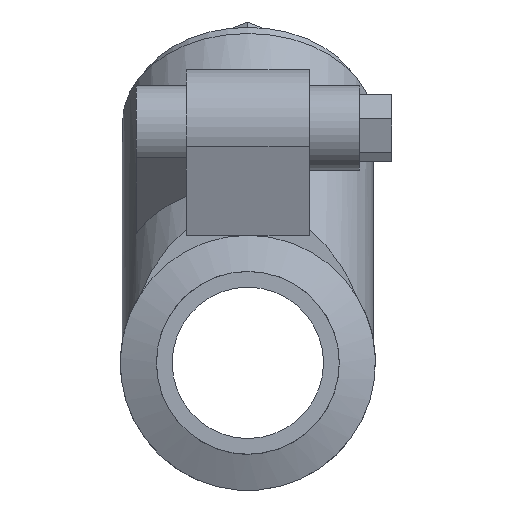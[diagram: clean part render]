
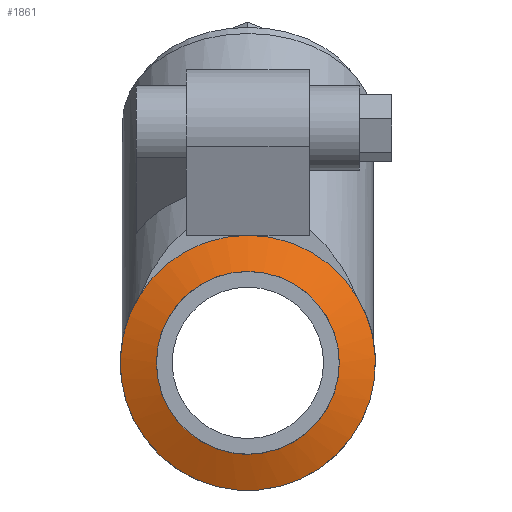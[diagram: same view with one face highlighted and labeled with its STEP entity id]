
A CAD part, left-side view. The second image highlights one B-rep face of the part: STEP entity #1861.
In plain terms, the highlighted conical face has half-angle 66.708 degrees and reference radius 0.633 mm.
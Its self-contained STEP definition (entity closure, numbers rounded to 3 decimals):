
#428 = PLANE('',#429);
#429 = AXIS2_PLACEMENT_3D('',#430,#431,#432);
#430 = CARTESIAN_POINT('',(0.795,0.,0.));
#431 = DIRECTION('',(-1.,0.,0.));
#432 = DIRECTION('',(0.,0.,1.));
#591 = VERTEX_POINT('',#592);
#592 = CARTESIAN_POINT('',(0.795,-0.629,0.385));
#722 = CYLINDRICAL_SURFACE('',#723,0.738);
#723 = AXIS2_PLACEMENT_3D('',#724,#725,#726);
#724 = CARTESIAN_POINT('',(2.595,0.,0.));
#725 = DIRECTION('',(-1.,0.,0.));
#726 = DIRECTION('',(0.,-1.,0.));
#1098 = VERTEX_POINT('',#1099);
#1099 = CARTESIAN_POINT('',(0.795,0.629,0.385));
#1198 = PLANE('',#1199);
#1199 = AXIS2_PLACEMENT_3D('',#1200,#1201,#1202);
#1200 = CARTESIAN_POINT('',(0.795,0.,0.));
#1201 = DIRECTION('',(-1.,0.,0.));
#1202 = DIRECTION('',(0.,0.,1.));
#1323 = EDGE_CURVE('',#1098,#1324,#1326,.T.);
#1324 = VERTEX_POINT('',#1325);
#1325 = CARTESIAN_POINT('',(0.795,0.,0.738));
#1326 = SURFACE_CURVE('',#1327,(#1332,#1343),.PCURVE_S1.);
#1327 = CIRCLE('',#1328,0.738);
#1328 = AXIS2_PLACEMENT_3D('',#1329,#1330,#1331);
#1329 = CARTESIAN_POINT('',(0.795,0.,0.));
#1330 = DIRECTION('',(1.,0.,0.));
#1331 = DIRECTION('',(0.,-1.,0.));
#1332 = PCURVE('',#1198,#1333);
#1333 = DEFINITIONAL_REPRESENTATION('',(#1334),#1342);
#1334 = ( BOUNDED_CURVE() B_SPLINE_CURVE(2,(#1335,#1336,#1337,#1338,
#1339,#1340,#1341),.UNSPECIFIED.,.T.,.F.) B_SPLINE_CURVE_WITH_KNOTS((1,2
    ,2,2,2,1),(-2.094,0.,2.094,4.189,
6.283,8.378),.UNSPECIFIED.) CURVE() 
GEOMETRIC_REPRESENTATION_ITEM() RATIONAL_B_SPLINE_CURVE((1.,0.5,1.,0.5,
1.,0.5,1.)) REPRESENTATION_ITEM('') );
#1335 = CARTESIAN_POINT('',(0.,-0.738));
#1336 = CARTESIAN_POINT('',(-1.277,-0.738));
#1337 = CARTESIAN_POINT('',(-0.639,0.369));
#1338 = CARTESIAN_POINT('',(0.,1.475));
#1339 = CARTESIAN_POINT('',(0.639,0.369));
#1340 = CARTESIAN_POINT('',(1.277,-0.738));
#1341 = CARTESIAN_POINT('',(0.,-0.738));
#1342 = ( GEOMETRIC_REPRESENTATION_CONTEXT(2) 
PARAMETRIC_REPRESENTATION_CONTEXT() REPRESENTATION_CONTEXT('2D SPACE',''
  ) );
#1343 = PCURVE('',#1344,#1349);
#1344 = CONICAL_SURFACE('',#1345,0.633,1.164);
#1345 = AXIS2_PLACEMENT_3D('',#1346,#1347,#1348);
#1346 = CARTESIAN_POINT('',(0.75,0.,0.));
#1347 = DIRECTION('',(1.,0.,0.));
#1348 = DIRECTION('',(-0.,0.,1.));
#1349 = DEFINITIONAL_REPRESENTATION('',(#1350),#1354);
#1350 = LINE('',#1351,#1352);
#1351 = CARTESIAN_POINT('',(1.571,0.045));
#1352 = VECTOR('',#1353,1.);
#1353 = DIRECTION('',(1.,0.));
#1354 = ( GEOMETRIC_REPRESENTATION_CONTEXT(2) 
PARAMETRIC_REPRESENTATION_CONTEXT() REPRESENTATION_CONTEXT('2D SPACE',''
  ) );
#1402 = EDGE_CURVE('',#1324,#591,#1403,.T.);
#1403 = SURFACE_CURVE('',#1404,(#1409,#1420),.PCURVE_S1.);
#1404 = CIRCLE('',#1405,0.738);
#1405 = AXIS2_PLACEMENT_3D('',#1406,#1407,#1408);
#1406 = CARTESIAN_POINT('',(0.795,0.,0.));
#1407 = DIRECTION('',(1.,0.,0.));
#1408 = DIRECTION('',(0.,-1.,0.));
#1409 = PCURVE('',#428,#1410);
#1410 = DEFINITIONAL_REPRESENTATION('',(#1411),#1419);
#1411 = ( BOUNDED_CURVE() B_SPLINE_CURVE(2,(#1412,#1413,#1414,#1415,
#1416,#1417,#1418),.UNSPECIFIED.,.T.,.F.) B_SPLINE_CURVE_WITH_KNOTS((1,2
    ,2,2,2,1),(-2.094,0.,2.094,4.189,
6.283,8.378),.UNSPECIFIED.) CURVE() 
GEOMETRIC_REPRESENTATION_ITEM() RATIONAL_B_SPLINE_CURVE((1.,0.5,1.,0.5,
1.,0.5,1.)) REPRESENTATION_ITEM('') );
#1412 = CARTESIAN_POINT('',(0.,-0.738));
#1413 = CARTESIAN_POINT('',(-1.277,-0.738));
#1414 = CARTESIAN_POINT('',(-0.639,0.369));
#1415 = CARTESIAN_POINT('',(0.,1.475));
#1416 = CARTESIAN_POINT('',(0.639,0.369));
#1417 = CARTESIAN_POINT('',(1.277,-0.738));
#1418 = CARTESIAN_POINT('',(0.,-0.738));
#1419 = ( GEOMETRIC_REPRESENTATION_CONTEXT(2) 
PARAMETRIC_REPRESENTATION_CONTEXT() REPRESENTATION_CONTEXT('2D SPACE',''
  ) );
#1420 = PCURVE('',#1344,#1421);
#1421 = DEFINITIONAL_REPRESENTATION('',(#1422),#1426);
#1422 = LINE('',#1423,#1424);
#1423 = CARTESIAN_POINT('',(-4.712,0.045));
#1424 = VECTOR('',#1425,1.);
#1425 = DIRECTION('',(1.,0.));
#1426 = ( GEOMETRIC_REPRESENTATION_CONTEXT(2) 
PARAMETRIC_REPRESENTATION_CONTEXT() REPRESENTATION_CONTEXT('2D SPACE',''
  ) );
#1433 = EDGE_CURVE('',#591,#1098,#1434,.T.);
#1434 = SURFACE_CURVE('',#1435,(#1440,#1447),.PCURVE_S1.);
#1435 = CIRCLE('',#1436,0.738);
#1436 = AXIS2_PLACEMENT_3D('',#1437,#1438,#1439);
#1437 = CARTESIAN_POINT('',(0.795,0.,0.));
#1438 = DIRECTION('',(1.,0.,0.));
#1439 = DIRECTION('',(-0.,0.,1.));
#1440 = PCURVE('',#722,#1441);
#1441 = DEFINITIONAL_REPRESENTATION('',(#1442),#1446);
#1442 = LINE('',#1443,#1444);
#1443 = CARTESIAN_POINT('',(7.854,1.8));
#1444 = VECTOR('',#1445,1.);
#1445 = DIRECTION('',(-1.,0.));
#1446 = ( GEOMETRIC_REPRESENTATION_CONTEXT(2) 
PARAMETRIC_REPRESENTATION_CONTEXT() REPRESENTATION_CONTEXT('2D SPACE',''
  ) );
#1447 = PCURVE('',#1344,#1448);
#1448 = DEFINITIONAL_REPRESENTATION('',(#1449),#1453);
#1449 = LINE('',#1450,#1451);
#1450 = CARTESIAN_POINT('',(0.,0.045));
#1451 = VECTOR('',#1452,1.);
#1452 = DIRECTION('',(1.,0.));
#1453 = ( GEOMETRIC_REPRESENTATION_CONTEXT(2) 
PARAMETRIC_REPRESENTATION_CONTEXT() REPRESENTATION_CONTEXT('2D SPACE',''
  ) );
#1756 = EDGE_CURVE('',#1757,#1757,#1759,.T.);
#1757 = VERTEX_POINT('',#1758);
#1758 = CARTESIAN_POINT('',(0.705,0.,0.528));
#1759 = SURFACE_CURVE('',#1760,(#1765,#1777),.PCURVE_S1.);
#1760 = CIRCLE('',#1761,0.528);
#1761 = AXIS2_PLACEMENT_3D('',#1762,#1763,#1764);
#1762 = CARTESIAN_POINT('',(0.705,0.,0.));
#1763 = DIRECTION('',(1.,0.,0.));
#1764 = DIRECTION('',(-0.,0.,1.));
#1765 = PCURVE('',#1766,#1771);
#1766 = CYLINDRICAL_SURFACE('',#1767,0.528);
#1767 = AXIS2_PLACEMENT_3D('',#1768,#1769,#1770);
#1768 = CARTESIAN_POINT('',(0.75,0.,0.));
#1769 = DIRECTION('',(-1.,-0.,-0.));
#1770 = DIRECTION('',(-0.,0.,1.));
#1771 = DEFINITIONAL_REPRESENTATION('',(#1772),#1776);
#1772 = LINE('',#1773,#1774);
#1773 = CARTESIAN_POINT('',(-0.,0.045));
#1774 = VECTOR('',#1775,1.);
#1775 = DIRECTION('',(-1.,0.));
#1776 = ( GEOMETRIC_REPRESENTATION_CONTEXT(2) 
PARAMETRIC_REPRESENTATION_CONTEXT() REPRESENTATION_CONTEXT('2D SPACE',''
  ) );
#1777 = PCURVE('',#1344,#1778);
#1778 = DEFINITIONAL_REPRESENTATION('',(#1779),#1783);
#1779 = LINE('',#1780,#1781);
#1780 = CARTESIAN_POINT('',(0.,-0.045));
#1781 = VECTOR('',#1782,1.);
#1782 = DIRECTION('',(1.,0.));
#1783 = ( GEOMETRIC_REPRESENTATION_CONTEXT(2) 
PARAMETRIC_REPRESENTATION_CONTEXT() REPRESENTATION_CONTEXT('2D SPACE',''
  ) );
#1861 = ADVANCED_FACE('',(#1862),#1344,.T.);
#1862 = FACE_BOUND('',#1863,.T.);
#1863 = EDGE_LOOP('',(#1864,#1865,#1866,#1867,#1887,#1888));
#1864 = ORIENTED_EDGE('',*,*,#1323,.F.);
#1865 = ORIENTED_EDGE('',*,*,#1433,.F.);
#1866 = ORIENTED_EDGE('',*,*,#1402,.F.);
#1867 = ORIENTED_EDGE('',*,*,#1868,.F.);
#1868 = EDGE_CURVE('',#1757,#1324,#1869,.T.);
#1869 = SEAM_CURVE('',#1870,(#1873,#1880),.PCURVE_S1.);
#1870 = B_SPLINE_CURVE_WITH_KNOTS('',1,(#1871,#1872),.UNSPECIFIED.,.F.,
  .F.,(2,2),(-0.114,0.114),.PIECEWISE_BEZIER_KNOTS.);
#1871 = CARTESIAN_POINT('',(0.705,0.,0.528));
#1872 = CARTESIAN_POINT('',(0.795,0.,0.738));
#1873 = PCURVE('',#1344,#1874);
#1874 = DEFINITIONAL_REPRESENTATION('',(#1875),#1879);
#1875 = LINE('',#1876,#1877);
#1876 = CARTESIAN_POINT('',(0.,0.));
#1877 = VECTOR('',#1878,1.);
#1878 = DIRECTION('',(0.,1.));
#1879 = ( GEOMETRIC_REPRESENTATION_CONTEXT(2) 
PARAMETRIC_REPRESENTATION_CONTEXT() REPRESENTATION_CONTEXT('2D SPACE',''
  ) );
#1880 = PCURVE('',#1344,#1881);
#1881 = DEFINITIONAL_REPRESENTATION('',(#1882),#1886);
#1882 = LINE('',#1883,#1884);
#1883 = CARTESIAN_POINT('',(6.283,0.));
#1884 = VECTOR('',#1885,1.);
#1885 = DIRECTION('',(0.,1.));
#1886 = ( GEOMETRIC_REPRESENTATION_CONTEXT(2) 
PARAMETRIC_REPRESENTATION_CONTEXT() REPRESENTATION_CONTEXT('2D SPACE',''
  ) );
#1887 = ORIENTED_EDGE('',*,*,#1756,.T.);
#1888 = ORIENTED_EDGE('',*,*,#1868,.T.);
